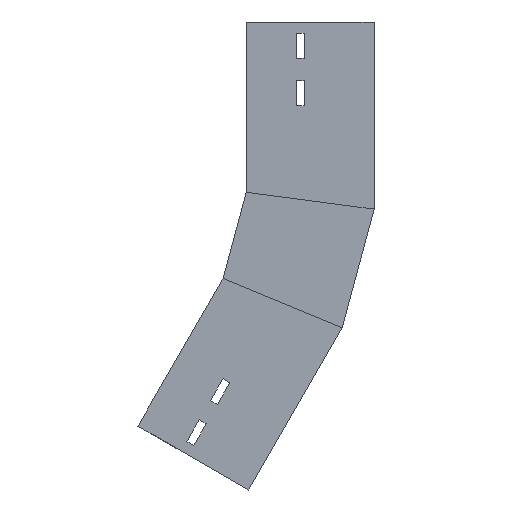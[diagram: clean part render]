
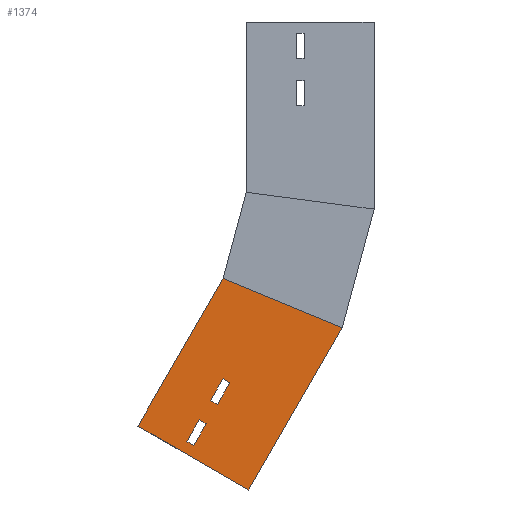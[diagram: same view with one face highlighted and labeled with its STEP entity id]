
A CAD part, left-side view. The second image highlights one B-rep face of the part: STEP entity #1374.
In plain terms, the highlighted planar face has unit normal (-1, 0, 0) as drawn and (1, 0, 0) by its records, which use the part's own axes.
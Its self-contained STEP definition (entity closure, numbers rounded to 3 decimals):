
#20 = CARTESIAN_POINT ( 'NONE',  ( 0., 61.5, -51.505 ) ) ;
#51 = CARTESIAN_POINT ( 'NONE',  ( 0., 68.5, -51.505 ) ) ;
#59 = VERTEX_POINT ( 'NONE', #1002 ) ;
#76 = DIRECTION ( 'NONE',  ( 0., 0., -1. ) ) ;
#85 = CARTESIAN_POINT ( 'NONE',  ( 0., 68.5, -9.835 ) ) ;
#104 = CARTESIAN_POINT ( 'NONE',  ( 0., 112.5, -149.789 ) ) ;
#107 = CARTESIAN_POINT ( 'NONE',  ( 0., 0., 0. ) ) ;
#131 = EDGE_CURVE ( 'NONE', #1060, #390, #592, .T. ) ;
#134 = LINE ( 'NONE', #606, #327 ) ;
#160 = VERTEX_POINT ( 'NONE', #247 ) ;
#166 = DIRECTION ( 'NONE',  ( 0., 0., -1. ) ) ;
#192 = EDGE_CURVE ( 'NONE', #160, #835, #134, .T. ) ;
#227 = LINE ( 'NONE', #85, #230 ) ;
#230 = VECTOR ( 'NONE', #76, 1000. ) ;
#247 = CARTESIAN_POINT ( 'NONE',  ( 0., 61.5, -51.505 ) ) ;
#249 = CARTESIAN_POINT ( 'NONE',  ( 0., 112.5, 0. ) ) ;
#269 = EDGE_CURVE ( 'NONE', #59, #636, #749, .T. ) ;
#303 = VERTEX_POINT ( 'NONE', #1301 ) ;
#313 = LINE ( 'NONE', #51, #672 ) ;
#327 = VECTOR ( 'NONE', #1030, 1000. ) ;
#346 = CARTESIAN_POINT ( 'NONE',  ( 0., 68.5, -51.505 ) ) ;
#348 = DIRECTION ( 'NONE',  ( 0., 0., -1. ) ) ;
#351 = EDGE_CURVE ( 'NONE', #1320, #1177, #488, .T. ) ;
#360 = CARTESIAN_POINT ( 'NONE',  ( 0., 68.5, -9.835 ) ) ;
#385 = VECTOR ( 'NONE', #988, 1000. ) ;
#390 = VERTEX_POINT ( 'NONE', #249 ) ;
#427 = ORIENTED_EDGE ( 'NONE', *, *, #829, .F. ) ;
#462 = CARTESIAN_POINT ( 'NONE',  ( 0., 0., 0. ) ) ;
#488 = LINE ( 'NONE', #1141, #718 ) ;
#506 = ORIENTED_EDGE ( 'NONE', *, *, #908, .T. ) ;
#517 = PLANE ( 'NONE',  #1031 ) ;
#521 = VECTOR ( 'NONE', #1287, 1000. ) ;
#533 = LINE ( 'NONE', #1299, #683 ) ;
#571 = CARTESIAN_POINT ( 'NONE',  ( 0., 61.5, -31.835 ) ) ;
#576 = VECTOR ( 'NONE', #1161, 1000. ) ;
#592 = LINE ( 'NONE', #107, #521 ) ;
#606 = CARTESIAN_POINT ( 'NONE',  ( 0., 68.5, -51.505 ) ) ;
#612 = VERTEX_POINT ( 'NONE', #104 ) ;
#632 = ORIENTED_EDGE ( 'NONE', *, *, #351, .T. ) ;
#636 = VERTEX_POINT ( 'NONE', #360 ) ;
#672 = VECTOR ( 'NONE', #166, 1000. ) ;
#681 = EDGE_CURVE ( 'NONE', #612, #303, #702, .T. ) ;
#683 = VECTOR ( 'NONE', #943, 1000. ) ;
#686 = LINE ( 'NONE', #1044, #890 ) ;
#702 = LINE ( 'NONE', #802, #576 ) ;
#717 = CARTESIAN_POINT ( 'NONE',  ( 0., 61.5, -73.505 ) ) ;
#718 = VECTOR ( 'NONE', #1394, 1000. ) ;
#749 = LINE ( 'NONE', #964, #385 ) ;
#802 = CARTESIAN_POINT ( 'NONE',  ( 0., 21.301, -161.796 ) ) ;
#821 = LINE ( 'NONE', #1172, #1261 ) ;
#823 = CARTESIAN_POINT ( 'NONE',  ( 0., 0., 0. ) ) ;
#829 = EDGE_CURVE ( 'NONE', #390, #612, #821, .T. ) ;
#835 = VERTEX_POINT ( 'NONE', #346 ) ;
#848 = ORIENTED_EDGE ( 'NONE', *, *, #1408, .T. ) ;
#851 = ORIENTED_EDGE ( 'NONE', *, *, #1041, .T. ) ;
#860 = ORIENTED_EDGE ( 'NONE', *, *, #131, .F. ) ;
#872 = EDGE_CURVE ( 'NONE', #907, #1089, #686, .T. ) ;
#876 = ORIENTED_EDGE ( 'NONE', *, *, #872, .T. ) ;
#890 = VECTOR ( 'NONE', #1373, 1000. ) ;
#907 = VERTEX_POINT ( 'NONE', #1062 ) ;
#908 = EDGE_CURVE ( 'NONE', #1177, #59, #533, .T. ) ;
#914 = ORIENTED_EDGE ( 'NONE', *, *, #991, .T. ) ;
#943 = DIRECTION ( 'NONE',  ( 0., 0., 1. ) ) ;
#944 = DIRECTION ( 'NONE',  ( 0., 0., -1. ) ) ;
#956 = FACE_OUTER_BOUND ( 'NONE', #1490, .T. ) ;
#964 = CARTESIAN_POINT ( 'NONE',  ( 0., 68.5, -9.835 ) ) ;
#965 = CARTESIAN_POINT ( 'NONE',  ( 0., 0., 0. ) ) ;
#980 = DIRECTION ( 'NONE',  ( 0., 0., 1. ) ) ;
#982 = EDGE_CURVE ( 'NONE', #636, #1320, #227, .T. ) ;
#983 = ORIENTED_EDGE ( 'NONE', *, *, #982, .T. ) ;
#988 = DIRECTION ( 'NONE',  ( 0., 1., 0. ) ) ;
#991 = EDGE_CURVE ( 'NONE', #1060, #303, #1032, .T. ) ;
#1002 = CARTESIAN_POINT ( 'NONE',  ( 0., 61.5, -9.835 ) ) ;
#1030 = DIRECTION ( 'NONE',  ( 0., 1., 0. ) ) ;
#1031 = AXIS2_PLACEMENT_3D ( 'NONE', #965, #1086, #980 ) ;
#1032 = LINE ( 'NONE', #462, #1145 ) ;
#1041 = EDGE_CURVE ( 'NONE', #1089, #160, #1393, .T. ) ;
#1044 = CARTESIAN_POINT ( 'NONE',  ( 0., 68.5, -73.505 ) ) ;
#1057 = DIRECTION ( 'NONE',  ( 0., 0., 1. ) ) ;
#1060 = VERTEX_POINT ( 'NONE', #823 ) ;
#1062 = CARTESIAN_POINT ( 'NONE',  ( 0., 68.5, -73.505 ) ) ;
#1072 = FACE_BOUND ( 'NONE', #1243, .T. ) ;
#1086 = DIRECTION ( 'NONE',  ( -1., 0., 0. ) ) ;
#1089 = VERTEX_POINT ( 'NONE', #717 ) ;
#1141 = CARTESIAN_POINT ( 'NONE',  ( 0., 68.5, -31.835 ) ) ;
#1145 = VECTOR ( 'NONE', #348, 1000. ) ;
#1161 = DIRECTION ( 'NONE',  ( 0., -0.991, -0.131 ) ) ;
#1172 = CARTESIAN_POINT ( 'NONE',  ( 0., 112.5, 0. ) ) ;
#1177 = VERTEX_POINT ( 'NONE', #571 ) ;
#1242 = CARTESIAN_POINT ( 'NONE',  ( 0., 68.5, -31.835 ) ) ;
#1243 = EDGE_LOOP ( 'NONE', ( #1386, #848, #876, #851 ) ) ;
#1261 = VECTOR ( 'NONE', #944, 1000. ) ;
#1287 = DIRECTION ( 'NONE',  ( 0., 1., 0. ) ) ;
#1299 = CARTESIAN_POINT ( 'NONE',  ( 0., 61.5, -9.835 ) ) ;
#1301 = CARTESIAN_POINT ( 'NONE',  ( 0., 0., -164.6 ) ) ;
#1320 = VERTEX_POINT ( 'NONE', #1242 ) ;
#1322 = ORIENTED_EDGE ( 'NONE', *, *, #681, .F. ) ;
#1354 = ORIENTED_EDGE ( 'NONE', *, *, #269, .T. ) ;
#1373 = DIRECTION ( 'NONE',  ( 0., -1., 0. ) ) ;
#1374 = ADVANCED_FACE ( 'NONE', ( #1072, #956, #1415 ), #517, .F. ) ;
#1386 = ORIENTED_EDGE ( 'NONE', *, *, #192, .T. ) ;
#1393 = LINE ( 'NONE', #20, #1455 ) ;
#1394 = DIRECTION ( 'NONE',  ( 0., -1., 0. ) ) ;
#1408 = EDGE_CURVE ( 'NONE', #835, #907, #313, .T. ) ;
#1415 = FACE_BOUND ( 'NONE', #1429, .T. ) ;
#1429 = EDGE_LOOP ( 'NONE', ( #1354, #983, #632, #506 ) ) ;
#1455 = VECTOR ( 'NONE', #1057, 1000. ) ;
#1490 = EDGE_LOOP ( 'NONE', ( #427, #860, #914, #1322 ) ) ;
